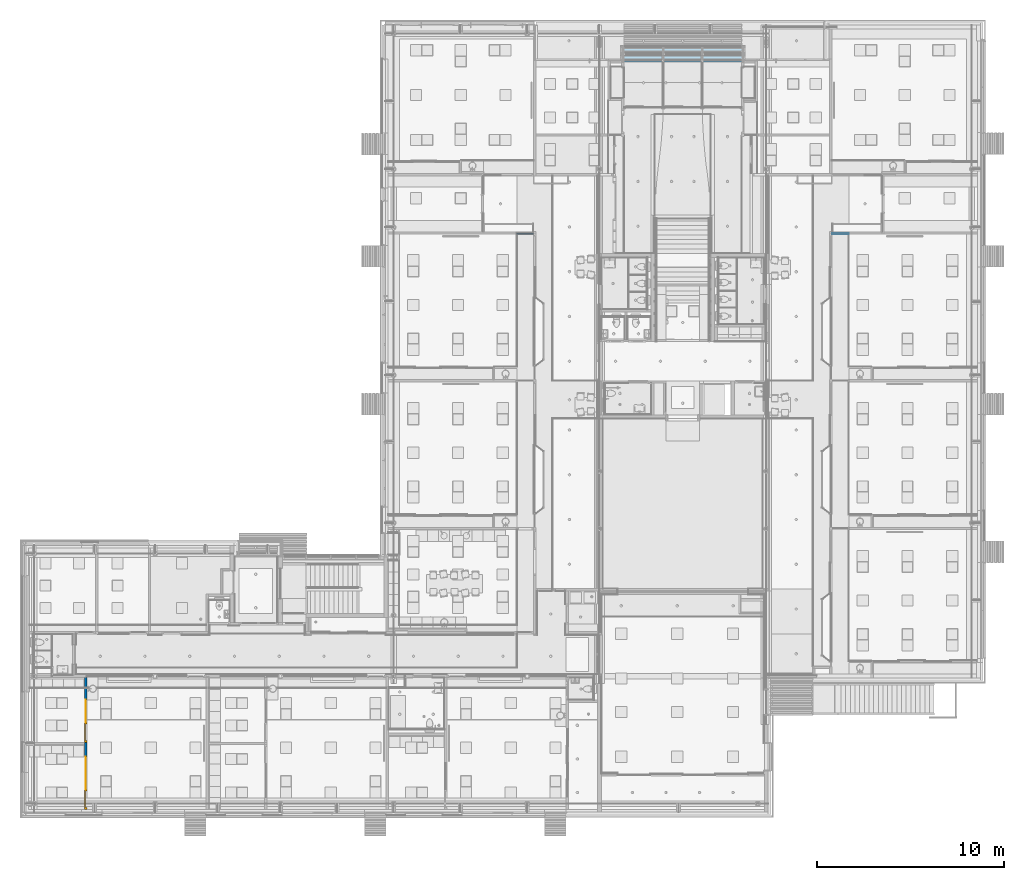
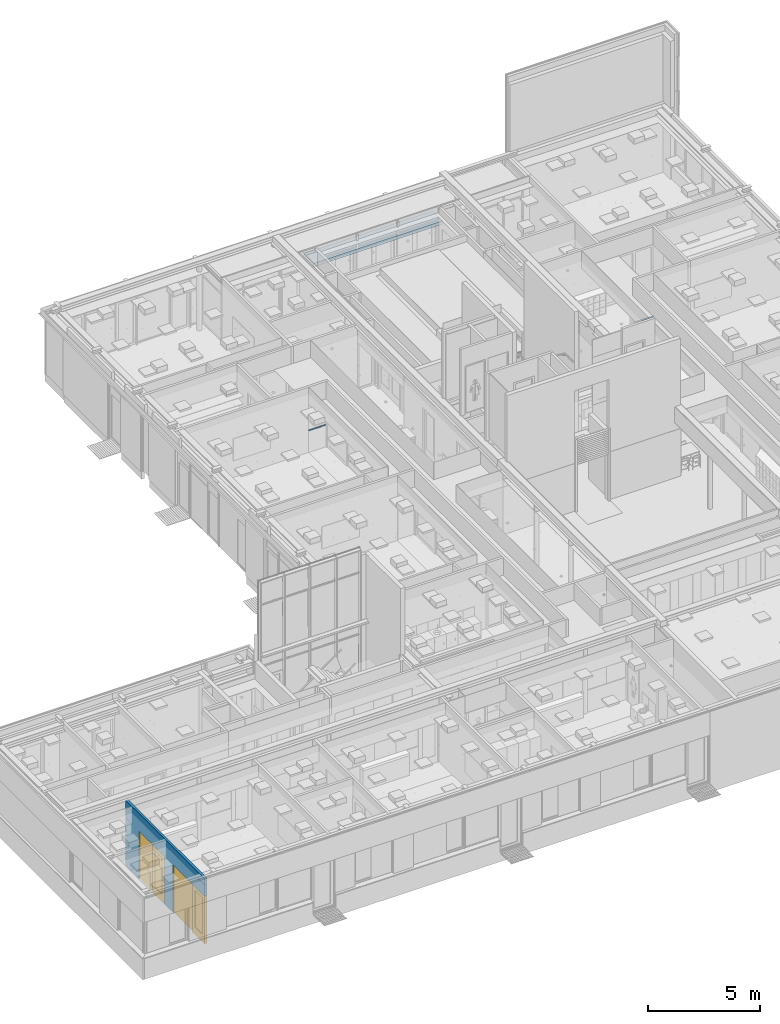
# One storey, part 40 of 347: 2 doors, 2 plates, 2 windows, 1 slab, 1 wall, 4 openings.
"""IFC2X3 building model written with IfcOpenShell, lengths in millimetres."""

from ifc_helpers import new_model, entity, si_unit, converted_unit, derived_unit, money_unit, direction, frame, origin_with_axes, place, context, subcontext, project, spatial, open_shell, faceted_brep, surface_model, source, transform, mapped, material, type_object, type_shapes, element, fill, save


model = new_model("IFC2X3")

# Units and contexts
model_context = context("Model", 3, precision=0.01, world=origin_with_axes(), true_north=direction((0.0, 1.0)))
plan_context = context("Plan", 3, precision=0.01, world=origin_with_axes(), true_north=direction((0.0, 1.0)))
body_context = subcontext(model_context, "Body", "Model", "MODEL_VIEW")
ifc_project = project(units=[si_unit("LENGTHUNIT", "METRE", prefix="MILLI"), si_unit("AREAUNIT", "SQUARE_METRE"), si_unit("VOLUMEUNIT", "CUBIC_METRE"), converted_unit("PLANEANGLEUNIT", "DEGREE", entity("IfcPlaneAngleMeasure", 0.0174532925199), si_unit("PLANEANGLEUNIT", "RADIAN"), dimensions=[0, 0, 0, 0, 0, 0, 0]), money_unit("EUR"), converted_unit("TIMEUNIT", "Year", entity("IfcTimeMeasure", 31556926.0), si_unit("TIMEUNIT", "SECOND"), dimensions=[0, 0, 1, 0, 0, 0, 0]), si_unit("MASSUNIT", "GRAM", prefix="KILO"), si_unit("THERMODYNAMICTEMPERATUREUNIT", "DEGREE_CELSIUS"), si_unit("LUMINOUSINTENSITYUNIT", "LUMEN"), si_unit("ENERGYUNIT", "JOULE", prefix="MEGA"), derived_unit("THERMALCONDUCTANCEUNIT", [(si_unit("POWERUNIT", "WATT"), 1), (si_unit("LENGTHUNIT", "METRE"), -1), (si_unit("THERMODYNAMICTEMPERATUREUNIT", "KELVIN"), -1)]), derived_unit("SPECIFICHEATCAPACITYUNIT", [(si_unit("ENERGYUNIT", "JOULE"), 1), (si_unit("MASSUNIT", "GRAM", prefix="KILO"), -1), (si_unit("THERMODYNAMICTEMPERATUREUNIT", "KELVIN"), -1)]), derived_unit("MASSDENSITYUNIT", [(si_unit("MASSUNIT", "GRAM", prefix="KILO"), 1), (si_unit("VOLUMEUNIT", "CUBIC_METRE"), -1)])], contexts=[model_context, plan_context])

# Site, building, storey
site_placement = place(None, origin_with_axes())
site = spatial("IfcSite", under=ifc_project, at=site_placement, Name="Site", CompositionType="ELEMENT")
building_placement = place(site_placement, origin_with_axes())
building = spatial("IfcBuilding", under=site, at=building_placement, Name="Naam gebouw", CompositionType="ELEMENT")
storey_placement = place(building_placement, origin_with_axes())
storey = spatial("IfcBuildingStorey", under=building, at=storey_placement, Name="begane grond", CompositionType="ELEMENT", Elevation=0.0)

# Plates
ifc_material_1 = material(Name="Hout - Lockers")
plate_type = type_object("IfcPlateType", Name="Hout - Lockers 25", PredefinedType="SHEET")
plate_1_placement = place(storey_placement, frame((48974.9999807, 35890.0, 1200.0), z_axis=(0.0, 0.0, 1.0), x_axis=(1.0, 0.0, 0.0)))
element("IfcPlate", 1, at=plate_1_placement, inside=storey, type_object=plate_type, material=ifc_material_1, Name="72_72 vaste inrichting", ObjectType="SHEET", context=body_context, shape_type="Brep", body=[
    faceted_brep([(0.0, 0.0, 0.0), (0.0, 0.0, -25.0), (-892.999980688, 0.0, -25.0), (-892.999980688, 0.0, 0.0), (0.0, -52.5000194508, 0.0), (0.0, -52.5000194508, -25.0), (-892.999980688, -52.5000194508, -25.0), (-892.999980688, -52.5000194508, 0.0)], [[[0, 1, 2, 3]], [[4, 5, 1, 0]], [[2, 1, 5, 6]], [[3, 2, 6, 7]], [[4, 0, 3, 7]], [[7, 6, 5, 4]]]),
])
plate_2_placement = place(storey_placement, frame((31175.0000193, 35893.5, 1200.0), z_axis=(0.0, 0.0, 1.0), x_axis=(1.0, 0.0, 0.0)))
element("IfcPlate", 2, at=plate_2_placement, inside=storey, type_object=plate_type, material=ifc_material_1, Name="72_72 vaste inrichting", ObjectType="SHEET", context=body_context, shape_type="Brep", body=[
    faceted_brep([(0.0, 0.0, 0.0), (0.0, 0.0, -25.0), (0.0, -56.0000194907, -25.0), (0.0, -56.0000194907, 0.0), (892.999980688, 0.0, 0.0), (892.999980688, 0.0, -25.0), (892.999980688, -56.0000194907, -25.0), (892.999980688, -56.0000194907, 0.0)], [[[0, 1, 2, 3]], [[4, 5, 1, 0]], [[2, 1, 5, 6]], [[3, 2, 6, 7]], [[4, 0, 3, 7]], [[7, 6, 5, 4]]]),
])

# Slab
ifc_material_2 = material(Name="ALG - PREFAB")
slab_type = type_object("IfcSlabType", Name="ALG - PREFAB 185", PredefinedType="NOTDEFINED")
slab_placement = place(storey_placement, frame((36740.0, 45053.0, 2580.0), z_axis=(0.0, 0.0, 1.0), x_axis=(1.0, 0.0, 0.0)))
element("IfcSlab", 3, at=slab_placement, inside=storey, type_object=slab_type, material=ifc_material_2, Name="23_23 VBI 261 + druklaag", PredefinedType="NOTDEFINED", context=body_context, shape_type="Brep", body=[
    faceted_brep([(180.0, 255.0, 0.0), (90.0, 255.0, 0.0), (90.0, 345.0, 0.0), (180.0, 345.0, 0.0), (90.0, 255.0, 40.0000000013), (180.0, 255.0, 40.0000000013), (90.0, 345.0, 40.0000000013), (180.0, 345.0, 40.0000000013), (185.0, 250.0, 40.0000000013), (85.0, 250.0, 40.0000000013), (85.0, 350.0, 40.0000000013), (185.0, 350.0, 40.0000000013), (185.0, 250.0, 0.0), (85.0, 250.0, 0.0), (85.0, 350.0, 0.0), (185.0, 350.0, 0.0), (6670.0, 897.0, 0.0), (6670.0, 0.0, 0.0), (0.0, 0.0, 0.0), (0.0, 897.0, 0.0), (25.0, 511.000000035, 0.0), (25.0, 473.000000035, 0.0), (145.0, 473.000000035, 0.0), (145.0, 511.000000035, 0.0), (6525.0, 511.000000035, 0.0), (6525.0, 473.000000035, 0.0), (6645.0, 473.000000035, 0.0), (6645.0, 511.000000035, 0.0), (6525.0, 393.000000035, 0.0), (6525.0, 355.000000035, 0.0), (6645.0, 355.000000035, 0.0), (6645.0, 393.000000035, 0.0), (6525.0, 851.0, 0.0), (6525.0, 813.0, 0.0), (6645.0, 813.0, 0.0), (6645.0, 851.0, 0.0), (25.0, 393.000000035, 0.0), (25.0, 355.000000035, 0.0), (145.0, 355.000000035, 0.0), (145.0, 393.000000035, 0.0), (25.0, 851.0, 0.0), (25.0, 813.0, 0.0), (145.0, 813.0, 0.0), (145.0, 851.0, 0.0), (6485.0, 5.0, 0.0), (6585.0, 5.0, 0.0), (6585.0, 100.0, 0.0), (6645.0, 100.0, 0.0), (6645.0, 138.0, 0.0), (6525.0, 138.0, 0.0), (6525.0, 105.0, 0.0), (6485.0, 105.0, 0.0), (85.0, 100.0, 0.0), (85.0, 5.0, 0.0), (185.0, 5.0, 0.0), (185.0, 105.0, 0.0), (145.0, 105.0, 0.0), (145.0, 138.0, 0.0), (25.0, 138.0, 0.0), (25.0, 100.0, 0.0), (6485.0, 350.0, 0.0), (6485.0, 250.0, 0.0), (6585.0, 250.0, 0.0), (6585.0, 350.0, 0.0), (4335.0, 350.0, 0.0), (4335.0, 250.0, 0.0), (4435.0, 250.0, 0.0), (4435.0, 350.0, 0.0), (2235.0, 350.0, 0.0), (2235.0, 250.0, 0.0), (2335.0, 250.0, 0.0), (2335.0, 350.0, 0.0), (6670.0, 897.0, 185.000000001), (6670.0, 0.0, 185.000000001), (0.0, 0.0, 185.000000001), (0.0, 897.0, 185.000000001), (25.0, 473.000000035, 40.0000000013), (25.0, 511.000000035, 40.0000000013), (145.0, 473.000000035, 40.0000000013), (145.0, 511.000000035, 40.0000000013), (6525.0, 473.000000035, 40.0000000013), (6525.0, 511.000000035, 40.0000000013), (6645.0, 473.000000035, 40.0000000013), (6645.0, 511.000000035, 40.0000000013), (6525.0, 355.000000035, 40.0000000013), (6525.0, 393.000000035, 40.0000000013), (6645.0, 355.000000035, 40.0000000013), (6645.0, 393.000000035, 40.0000000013), (6525.0, 813.0, 40.0000000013), (6525.0, 851.0, 40.0000000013), (6645.0, 813.0, 40.0000000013), (6645.0, 851.0, 40.0000000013), (25.0, 355.000000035, 40.0000000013), (25.0, 393.000000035, 40.0000000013), (145.0, 355.000000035, 40.0000000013), (145.0, 393.000000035, 40.0000000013), (25.0, 813.0, 40.0000000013), (25.0, 851.0, 40.0000000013), (145.0, 813.0, 40.0000000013), (145.0, 851.0, 40.0000000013), (6585.0, 5.0, 40.0000000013), (6485.0, 5.0, 40.0000000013), (6585.0, 100.0, 40.0000000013), (6645.0, 100.0, 40.0000000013), (6645.0, 138.0, 40.0000000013), (6525.0, 138.0, 40.0000000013), (6525.0, 105.0, 40.0000000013), (6485.0, 105.0, 40.0000000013), (85.0, 100.0, 40.0000000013), (85.0, 5.0, 40.0000000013), (185.0, 5.0, 40.0000000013), (185.0, 105.0, 40.0000000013), (145.0, 105.0, 40.0000000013), (145.0, 138.0, 40.0000000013), (25.0, 138.0, 40.0000000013), (25.0, 100.0, 40.0000000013), (6485.0, 250.0, 40.0000000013), (6485.0, 350.0, 40.0000000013), (6585.0, 250.0, 40.0000000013), (6585.0, 350.0, 40.0000000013), (4335.0, 250.0, 40.0000000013), (4335.0, 350.0, 40.0000000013), (4435.0, 250.0, 40.0000000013), (4435.0, 350.0, 40.0000000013), (2235.0, 250.0, 40.0000000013), (2235.0, 350.0, 40.0000000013), (2335.0, 250.0, 40.0000000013), (2335.0, 350.0, 40.0000000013), (4425.0, 15.0, 185.000000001), (4345.0, 15.0, 185.000000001), (4345.0, 95.0, 185.000000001), (4425.0, 95.0, 185.000000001), (2325.0, 15.0, 185.000000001), (2245.0, 15.0, 185.000000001), (2245.0, 95.0, 185.000000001), (2325.0, 95.0, 185.000000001), (6580.0, 100.0, 40.0000000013), (6490.0, 100.0, 40.0000000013), (6490.0, 10.0, 40.0000000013), (6580.0, 10.0, 40.0000000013), (180.0, 100.0, 40.0000000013), (90.0, 100.0, 40.0000000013), (90.0, 10.0, 40.0000000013), (180.0, 10.0, 40.0000000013), (6490.0, 345.0, 40.0000000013), (6490.0, 255.0, 40.0000000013), (6580.0, 255.0, 40.0000000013), (6580.0, 345.0, 40.0000000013), (4340.0, 345.0, 40.0000000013), (4340.0, 255.0, 40.0000000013), (4430.0, 255.0, 40.0000000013), (4430.0, 345.0, 40.0000000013), (2240.0, 345.0, 40.0000000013), (2240.0, 255.0, 40.0000000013), (2330.0, 255.0, 40.0000000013), (2330.0, 345.0, 40.0000000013), (4345.0, 15.0, 40.0000000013), (4425.0, 15.0, 40.0000000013), (4345.0, 95.0, 40.0000000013), (4425.0, 95.0, 40.0000000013), (2245.0, 15.0, 40.0000000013), (2325.0, 15.0, 40.0000000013), (2245.0, 95.0, 40.0000000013), (2325.0, 95.0, 40.0000000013), (6580.0, 100.0, 0.0), (6490.0, 100.0, 0.0), (6490.0, 10.0, 0.0), (6580.0, 10.0, 0.0), (180.0, 100.0, 0.0), (90.0, 100.0, 0.0), (90.0, 10.0, 0.0), (180.0, 10.0, 0.0), (6490.0, 345.0, 0.0), (6490.0, 255.0, 0.0), (6580.0, 255.0, 0.0), (6580.0, 345.0, 0.0), (4340.0, 345.0, 0.0), (4340.0, 255.0, 0.0), (4430.0, 255.0, 0.0), (4430.0, 345.0, 0.0), (2240.0, 345.0, 0.0), (2240.0, 255.0, 0.0), (2330.0, 255.0, 0.0), (2330.0, 345.0, 0.0), (4420.0, 20.0, 40.0000000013), (4350.0, 20.0, 40.0000000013), (4350.0, 90.0, 40.0000000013), (4420.0, 90.0, 40.0000000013), (2320.0, 20.0, 40.0000000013), (2250.0, 20.0, 40.0000000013), (2250.0, 90.0, 40.0000000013), (2320.0, 90.0, 40.0000000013), (4420.0, 20.0, 185.000000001), (4350.0, 20.0, 185.000000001), (4350.0, 90.0, 185.000000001), (4420.0, 90.0, 185.000000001), (2320.0, 20.0, 185.000000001), (2250.0, 20.0, 185.000000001), (2250.0, 90.0, 185.000000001), (2320.0, 90.0, 185.000000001)], [[[0, 1, 2, 3]], [[4, 1, 0, 5]], [[6, 2, 1, 4]], [[7, 3, 2, 6]], [[5, 0, 3, 7]], [[8, 9, 10, 11], [6, 4, 5, 7]], [[8, 12, 13, 9]], [[9, 13, 14, 10]], [[10, 14, 15, 11]], [[11, 15, 12, 8]], [[16, 17, 18, 19], [20, 21, 22, 23], [24, 25, 26, 27], [28, 29, 30, 31], [32, 33, 34, 35], [36, 37, 38, 39], [40, 41, 42, 43], [44, 45, 46, 47, 48, 49, 50, 51], [52, 53, 54, 55, 56, 57, 58, 59], [60, 61, 62, 63], [64, 65, 66, 67], [68, 69, 70, 71], [14, 13, 12, 15]], [[72, 73, 17, 16]], [[73, 74, 18, 17]], [[74, 75, 19, 18]], [[75, 72, 16, 19]], [[76, 21, 20, 77]], [[78, 22, 21, 76]], [[79, 23, 22, 78]], [[77, 20, 23, 79]], [[80, 25, 24, 81]], [[82, 26, 25, 80]], [[83, 27, 26, 82]], [[81, 24, 27, 83]], [[84, 29, 28, 85]], [[86, 30, 29, 84]], [[87, 31, 30, 86]], [[85, 28, 31, 87]], [[88, 33, 32, 89]], [[90, 34, 33, 88]], [[91, 35, 34, 90]], [[89, 32, 35, 91]], [[92, 37, 36, 93]], [[94, 38, 37, 92]], [[95, 39, 38, 94]], [[93, 36, 39, 95]], [[96, 41, 40, 97]], [[98, 42, 41, 96]], [[99, 43, 42, 98]], [[97, 40, 43, 99]], [[100, 45, 44, 101]], [[100, 102, 46, 45]], [[47, 46, 102, 103]], [[104, 48, 47, 103]], [[105, 49, 48, 104]], [[105, 106, 50, 49]], [[51, 50, 106, 107]], [[101, 44, 51, 107]], [[53, 52, 108, 109]], [[110, 54, 53, 109]], [[111, 55, 54, 110]], [[112, 56, 55, 111]], [[57, 56, 112, 113]], [[114, 58, 57, 113]], [[115, 59, 58, 114]], [[115, 108, 52, 59]], [[116, 61, 60, 117]], [[118, 62, 61, 116]], [[119, 63, 62, 118]], [[117, 60, 63, 119]], [[120, 65, 64, 121]], [[122, 66, 65, 120]], [[123, 67, 66, 122]], [[121, 64, 67, 123]], [[124, 69, 68, 125]], [[126, 70, 69, 124]], [[127, 71, 70, 126]], [[125, 68, 71, 127]], [[72, 75, 74, 73], [128, 129, 130, 131], [132, 133, 134, 135]], [[78, 76, 77, 79]], [[82, 80, 81, 83]], [[86, 84, 85, 87]], [[90, 88, 89, 91]], [[94, 92, 93, 95]], [[98, 96, 97, 99]], [[107, 106, 105, 104, 103, 102, 100, 101], [136, 137, 138, 139]], [[109, 108, 115, 114, 113, 112, 111, 110], [140, 141, 142, 143]], [[118, 116, 117, 119], [144, 145, 146, 147]], [[122, 120, 121, 123], [148, 149, 150, 151]], [[126, 124, 125, 127], [152, 153, 154, 155]], [[156, 129, 128, 157]], [[158, 130, 129, 156]], [[159, 131, 130, 158]], [[157, 128, 131, 159]], [[160, 133, 132, 161]], [[162, 134, 133, 160]], [[163, 135, 134, 162]], [[161, 132, 135, 163]], [[164, 165, 137, 136]], [[137, 165, 166, 138]], [[138, 166, 167, 139]], [[167, 164, 136, 139]], [[168, 169, 141, 140]], [[142, 141, 169, 170]], [[142, 170, 171, 143]], [[143, 171, 168, 140]], [[144, 172, 173, 145]], [[145, 173, 174, 146]], [[146, 174, 175, 147]], [[147, 175, 172, 144]], [[148, 176, 177, 149]], [[149, 177, 178, 150]], [[150, 178, 179, 151]], [[151, 179, 176, 148]], [[152, 180, 181, 153]], [[153, 181, 182, 154]], [[154, 182, 183, 155]], [[155, 183, 180, 152]], [[158, 156, 157, 159], [184, 185, 186, 187]], [[162, 160, 161, 163], [188, 189, 190, 191]], [[166, 165, 164, 167]], [[171, 170, 169, 168]], [[174, 173, 172, 175]], [[178, 177, 176, 179]], [[182, 181, 180, 183]], [[184, 192, 193, 185]], [[185, 193, 194, 186]], [[186, 194, 195, 187]], [[187, 195, 192, 184]], [[188, 196, 197, 189]], [[189, 197, 198, 190]], [[190, 198, 199, 191]], [[191, 199, 196, 188]], [[194, 193, 192, 195]], [[198, 197, 196, 199]]]),
])

# Wall, openings, windows, doors
ifc_material_3 = material(Name="ALG - LICHTE SCHEIDINGSWAND")
wall_type = type_object("IfcWallType", Name="ALG LSW 125 125", PredefinedType="NOTDEFINED")
wall_placement = place(storey_placement, frame((8000.0, 12125.0, 0.0), z_axis=(0.0, 0.0, 1.0), x_axis=(0.0, -1.0, 0.0)))
wall = element("IfcWall", 4, at=wall_placement, inside=storey, type_object=wall_type, material=ifc_material_3, Name="22_GF 125 ECO DGS/2.75.3A", context=body_context, shape_type="Brep", body=[
    faceted_brep([(3535.0, 125.0, 0.0), (3535.0, 125.0, 2600.0), (2471.0, 125.0, 2600.0), (1262.5, 125.0, 2600.0), (1262.5, 125.0, 0.0), (62.5, 125.0, 0.0), (62.5, 125.0, 2600.0), (625.00002799, 125.0, 2600.0), (625.00002799, 125.0, 2612.0), (62.5, 125.0, 2612.0), (62.5, 125.0, 3560.0), (7125.00000221, 125.0, 3560.0), (7125.00002799, 125.0, 3212.0), (6525.00002799, 125.0, 3212.0), (6525.00002799, 125.0, 3200.0), (7125.00002799, 125.0, 3200.0), (7125.00002799, 125.0, 2600.0), (6061.00002799, 125.0, 2600.0), (4311.00002799, 125.0, 2600.0), (4311.00002799, 125.0, 0.0), (3535.0, 0.0, 0.0), (3535.0, 0.0, 2600.0), (2471.0, 0.0, 2600.0), (1262.5, 0.0, 2600.0), (1262.5, 0.0, 0.0), (62.5, 0.0, 0.0), (62.5, 0.0, 2600.0), (625.00002799, 0.0, 2600.0), (625.00002799, 0.0, 2612.0), (62.5, 0.0, 2612.0), (62.5, 0.0, 3560.0), (7125.00000221, 0.0, 3560.0), (7125.00002799, 0.0, 3212.0), (6525.00002799, 0.0, 3212.0), (6525.00002799, 0.0, 3200.0), (7125.00002799, 0.0, 3200.0), (7125.00002799, 0.0, 2600.0), (6061.00002799, 0.0, 2600.0), (4311.00002799, 0.0, 2600.0), (4311.00002799, 0.0, 0.0)], [[[0, 1, 2, 3, 4, 5, 6, 7, 8, 9, 10, 11, 12, 13, 14, 15, 16, 17, 18, 19]], [[1, 0, 20, 21]], [[22, 2, 1, 21]], [[2, 22, 23, 3]], [[23, 24, 4, 3]], [[24, 25, 5, 4]], [[6, 5, 25, 26]], [[6, 26, 27, 7]], [[7, 27, 28, 8]], [[9, 8, 28, 29]], [[29, 30, 10, 9]], [[31, 11, 10, 30]], [[12, 11, 31, 32]], [[12, 32, 33, 13]], [[13, 33, 34, 14]], [[14, 34, 35, 15]], [[16, 15, 35, 36]], [[17, 16, 36, 37]], [[37, 38, 18, 17]], [[19, 18, 38, 39]], [[20, 0, 19, 39]], [[21, 20, 39, 38, 37, 36, 35, 34, 33, 32, 31, 30, 29, 28, 27, 26, 25, 24, 23, 22]]]),
])
opening_1_placement = place(wall_placement, frame((1866.75, 0.0, 0.0), z_axis=(0.0, 0.0, 1.0), x_axis=(1.0, 0.0, 0.0)))
opening_1 = element("IfcOpeningElement", 5, at=opening_1_placement, cuts=wall, Name="32_10.19", context=body_context, shape_type="Brep", body=[
    faceted_brep([(-604.25, 72.5, 2600.0), (-604.25, 72.5, 0.0), (-604.25, -125.0, 0.0), (-604.25, -125.0, 2600.0), (604.25, 72.5, 2600.0), (604.25, 72.5, 0.0), (604.25, -125.0, 0.0), (604.25, -125.0, 2600.0)], [[[0, 1, 2, 3]], [[0, 4, 5, 1]], [[1, 5, 6, 2]], [[3, 2, 6, 7]], [[4, 0, 3, 7]], [[5, 4, 7, 6]]]),
    faceted_brep([(-604.25, 72.5, 0.0), (-604.25, 72.5, 2600.0), (-604.25, 250.0, 2600.0), (-604.25, 250.0, 0.0), (604.25, 72.5, 0.0), (604.25, 72.5, 2600.0), (604.25, 250.0, 2600.0), (604.25, 250.0, 0.0)], [[[0, 1, 2, 3]], [[0, 4, 5, 1]], [[1, 5, 6, 2]], [[3, 2, 6, 7]], [[4, 0, 3, 7]], [[5, 4, 7, 6]]]),
])
opening_2_placement = place(wall_placement, frame((5186.00002799, 0.0, 0.0), z_axis=(0.0, 0.0, 1.0), x_axis=(1.0, 0.0, 0.0)))
opening_2 = element("IfcOpeningElement", 6, at=opening_2_placement, cuts=wall, Name="32_10.05", context=body_context, shape_type="Brep", body=[
    faceted_brep([(-875.0, 72.5, 2600.0), (-875.0, 72.5, 0.0), (-875.0, -125.0, 0.0), (-875.0, -125.0, 2600.0), (875.0, 72.5, 2600.0), (875.0, 72.5, 0.0), (875.0, -125.0, 0.0), (875.0, -125.0, 2600.0)], [[[0, 1, 2, 3]], [[0, 4, 5, 1]], [[1, 5, 6, 2]], [[3, 2, 6, 7]], [[4, 0, 3, 7]], [[5, 4, 7, 6]]]),
    faceted_brep([(-875.0, 72.5, 0.0), (-875.0, 72.5, 2600.0), (-875.0, 250.0, 2600.0), (-875.0, 250.0, 0.0), (875.0, 72.5, 0.0), (875.0, 72.5, 2600.0), (875.0, 250.0, 2600.0), (875.0, 250.0, 0.0)], [[[0, 1, 2, 3]], [[0, 4, 5, 1]], [[1, 5, 6, 2]], [[3, 2, 6, 7]], [[4, 0, 3, 7]], [[5, 4, 7, 6]]]),
])
opening_3_placement = place(wall_placement, frame((6593.00002799, 0.0, 0.0), z_axis=(0.0, 0.0, 1.0), x_axis=(1.0, 0.0, 0.0)))
opening_3 = element("IfcOpeningElement", 7, at=opening_3_placement, cuts=wall, Name="32_01.01", context=body_context, shape_type="Brep", body=[
    faceted_brep([(532.0, 257.0, 0.0), (532.0, 257.0, 2600.0), (532.0, -125.0, 2600.0), (532.0, -125.0, 0.0), (-532.0, 257.0, 0.0), (-532.0, 257.0, 2600.0), (-532.0, -125.0, 2600.0), (-532.0, -125.0, 0.0)], [[[0, 1, 2, 3]], [[0, 4, 5, 1]], [[1, 5, 6, 2]], [[3, 2, 6, 7]], [[4, 0, 3, 7]], [[5, 4, 7, 6]]]),
])
opening_4_placement = place(wall_placement, frame((3003.0, 0.0, 0.0), z_axis=(0.0, 0.0, 1.0), x_axis=(1.0, 0.0, 0.0)))
opening_4 = element("IfcOpeningElement", 8, at=opening_4_placement, cuts=wall, Name="32_01.01", context=body_context, shape_type="Brep", body=[
    faceted_brep([(532.0, 257.0, 0.0), (532.0, 257.0, 2600.0), (532.0, -125.0, 2600.0), (532.0, -125.0, 0.0), (-532.0, 257.0, 0.0), (-532.0, 257.0, 2600.0), (-532.0, -125.0, 2600.0), (-532.0, -125.0, 0.0)], [[[0, 1, 2, 3]], [[0, 4, 5, 1]], [[1, 5, 6, 2]], [[3, 2, 6, 7]], [[4, 0, 3, 7]], [[5, 4, 7, 6]]]),
])
window_style = type_object("IfcWindowStyle", Name="R1 25", ConstructionType="NOTDEFINED", OperationType="SINGLE_PANEL", ParameterTakesPrecedence=False, Sizeable=False)
window_1_placement = place(opening_1_placement, frame((-604.25, 0.0, 0.0), z_axis=(0.0, 0.0, 1.0), x_axis=(1.0, 0.0, 0.0)))
window_1 = element("IfcWindow", 9, at=window_1_placement, inside=storey, type_object=window_style, Name="32_10.19", ObjectType="WINDOW", OverallHeight=2600.0, OverallWidth=1208.5, context=body_context, shape_type="SurfaceModel", body=[
    faceted_brep([(1188.5, 52.5, 2580.0), (1208.5, 52.5, 2580.0), (1208.5, 72.5, 2580.0), (1188.5, 72.5, 2580.0), (1188.5, 52.5, 20.0), (1208.5, 52.5, 20.0), (1208.5, 72.5, 20.0), (1188.5, 72.5, 20.0)], [[[0, 1, 2, 3]], [[0, 4, 5, 1]], [[1, 5, 6, 2]], [[3, 2, 6, 7]], [[4, 0, 3, 7]], [[5, 4, 7, 6]]]),
    faceted_brep([(20.0, 52.5, 20.0), (0.0, 52.5, 20.0), (0.0, 72.5, 20.0), (20.0, 72.5, 20.0), (20.0, 52.5, 2580.0), (0.0, 52.5, 2580.0), (0.0, 72.5, 2580.0), (20.0, 72.5, 2580.0)], [[[0, 1, 2, 3]], [[0, 4, 5, 1]], [[1, 5, 6, 2]], [[3, 2, 6, 7]], [[4, 0, 3, 7]], [[5, 4, 7, 6]]]),
    faceted_brep([(1188.5, 52.5, 20.0), (1208.5, 52.5, 20.0), (1208.5, 72.5, 20.0), (1188.5, 72.5, 20.0), (20.0, 52.5, 20.0), (0.0, 52.5, 20.0), (0.0, 52.5, 0.0), (1208.5, 52.5, 0.0), (1208.5, 72.5, 0.0), (0.0, 72.5, 0.0), (0.0, 72.5, 20.0), (20.0, 72.5, 20.0)], [[[0, 1, 2, 3]], [[0, 4, 5, 6, 7, 1]], [[1, 7, 8, 2]], [[3, 2, 8, 9, 10, 11]], [[4, 0, 3, 11]], [[5, 4, 11, 10]], [[6, 5, 10, 9]], [[7, 6, 9, 8]]]),
    faceted_brep([(20.0, 52.5, 2580.0), (0.0, 52.5, 2580.0), (0.0, 72.5, 2580.0), (20.0, 72.5, 2580.0), (1188.5, 52.5, 2580.0), (1208.5, 52.5, 2580.0), (1208.5, 52.5, 2600.0), (0.0, 52.5, 2600.0), (0.0, 72.5, 2600.0), (1208.5, 72.5, 2600.0), (1208.5, 72.5, 2580.0), (1188.5, 72.5, 2580.0)], [[[0, 1, 2, 3]], [[0, 4, 5, 6, 7, 1]], [[1, 7, 8, 2]], [[3, 2, 8, 9, 10, 11]], [[4, 0, 3, 11]], [[5, 4, 11, 10]], [[6, 5, 10, 9]], [[7, 6, 9, 8]]]),
    surface_model("IfcShellBasedSurfaceModel", [(1188.5, 52.5, 20.0), (1188.5, 52.5, 2580.0), (20.0, 52.5, 2580.0), (20.0, 52.5, 20.0)], [open_shell([[[0, 1, 2, 3]]])]),
    surface_model("IfcShellBasedSurfaceModel", [(1188.5, 72.5, 20.0), (20.0, 72.5, 20.0), (20.0, 72.5, 2580.0), (1188.5, 72.5, 2580.0)], [open_shell([[[0, 1, 2, 3]]])]),
])
fill(opening_1, window_1)
door_style = type_object("IfcDoorStyle", Name="D1 25", ConstructionType="NOTDEFINED", OperationType="SINGLE_SWING_LEFT", ParameterTakesPrecedence=False, Sizeable=False)
shared_shape_1 = source(origin_with_axes(), body_context, "Body", "SurfaceModel", [
    faceted_brep([(442.0, -60.0, 0.0), (442.0, -139.0, 0.0), (442.0, -139.0, 2510.0), (442.0, -60.0, 2510.0), (467.0, -60.0, 0.0), (467.0, 0.0, 0.0), (532.0, 0.0, 0.0), (532.0, -139.0, 0.0), (532.0, -139.0, 2510.0), (467.0, -60.0, 2510.0), (532.0, 0.0, 2510.0), (467.0, 0.0, 2510.0)], [[[0, 1, 2, 3]], [[4, 5, 6, 7, 1, 0]], [[1, 7, 8, 2]], [[9, 3, 2, 8, 10, 11]], [[9, 4, 0, 3]], [[11, 5, 4, 9]], [[11, 10, 6, 5]], [[6, 10, 8, 7]]]),
    faceted_brep([(-467.0, -60.0, 2510.0), (-467.0, 0.0, 2510.0), (-532.0, 0.0, 2510.0), (-532.0, -139.0, 2510.0), (-442.0, -139.0, 2510.0), (-442.0, -60.0, 2510.0), (-467.0, -60.0, 0.0), (-467.0, 0.0, 0.0), (-532.0, 0.0, 0.0), (-532.0, -139.0, 0.0), (-442.0, -139.0, 0.0), (-442.0, -60.0, 0.0)], [[[0, 1, 2, 3, 4, 5]], [[0, 6, 7, 1]], [[7, 8, 2, 1]], [[2, 8, 9, 3]], [[3, 9, 10, 4]], [[5, 4, 10, 11]], [[5, 11, 6, 0]], [[6, 11, 10, 9, 8, 7]]]),
    faceted_brep([(467.0, 0.0, 2535.0), (-467.0, 0.0, 2535.0), (-467.0, 0.0, 2510.0), (-532.0, 0.0, 2510.0), (-532.0, 0.0, 2600.0), (532.0, 0.0, 2600.0), (532.0, 0.0, 2510.0), (467.0, 0.0, 2510.0), (467.0, -60.0, 2535.0), (-467.0, -60.0, 2535.0), (-467.0, -60.0, 2510.0), (-442.0, -60.0, 2510.0), (-442.0, -139.0, 2510.0), (-532.0, -139.0, 2510.0), (-532.0, -139.0, 2600.0), (532.0, -139.0, 2600.0), (532.0, -139.0, 2510.0), (467.0, -60.0, 2510.0), (442.0, -139.0, 2510.0), (442.0, -60.0, 2510.0)], [[[0, 1, 2, 3, 4, 5, 6, 7]], [[0, 8, 9, 1]], [[1, 9, 10, 2]], [[10, 11, 12, 13, 3, 2]], [[4, 3, 13, 14]], [[5, 4, 14, 15]], [[6, 5, 15, 16]], [[17, 7, 6, 16, 18, 19]], [[7, 17, 8, 0]], [[10, 9, 8, 17, 19, 11]], [[19, 18, 12, 11]], [[12, 18, 16, 15, 14, 13]]]),
    faceted_brep([(-467.0, -6.0, 400.0), (-327.0, -6.0, 400.0), (-327.0, -60.0, 400.0), (-467.0, -60.0, 400.0), (-467.0, -6.0, 2395.0), (-327.0, -6.0, 2395.0), (-327.0, -60.0, 2395.0), (-467.0, -60.0, 2395.0)], [[[0, 1, 2, 3]], [[0, 4, 5, 1]], [[1, 5, 6, 2]], [[3, 2, 6, 7]], [[4, 0, 3, 7]], [[5, 4, 7, 6]]]),
    faceted_brep([(467.0, -6.0, 400.0), (467.0, -6.0, 2395.0), (467.0, -60.0, 2395.0), (467.0, -60.0, 400.0), (327.0, -6.0, 400.0), (327.0, -6.0, 2395.0), (327.0, -60.0, 2395.0), (327.0, -60.0, 400.0)], [[[0, 1, 2, 3]], [[0, 4, 5, 1]], [[1, 5, 6, 2]], [[3, 2, 6, 7]], [[4, 0, 3, 7]], [[5, 4, 7, 6]]]),
    faceted_brep([(-467.0, -6.0, 0.0), (467.0, -6.0, 0.0), (467.0, -60.0, 0.0), (-467.0, -60.0, 0.0), (-467.0, -6.0, 400.0), (-327.0, -6.0, 400.0), (327.0, -6.0, 400.0), (467.0, -6.0, 400.0), (467.0, -60.0, 400.0), (327.0, -60.0, 400.0), (-327.0, -60.0, 400.0), (-467.0, -60.0, 400.0)], [[[0, 1, 2, 3]], [[0, 4, 5, 6, 7, 1]], [[1, 7, 8, 2]], [[3, 2, 8, 9, 10, 11]], [[4, 0, 3, 11]], [[5, 4, 11, 10]], [[6, 5, 10, 9]], [[7, 6, 9, 8]]]),
    faceted_brep([(-467.0, -6.0, 2535.0), (-467.0, -6.0, 2395.0), (-467.0, -60.0, 2395.0), (-467.0, -60.0, 2535.0), (467.0, -6.0, 2535.0), (467.0, -6.0, 2395.0), (327.0, -6.0, 2395.0), (-327.0, -6.0, 2395.0), (-327.0, -60.0, 2395.0), (327.0, -60.0, 2395.0), (467.0, -60.0, 2395.0), (467.0, -60.0, 2535.0)], [[[0, 1, 2, 3]], [[0, 4, 5, 6, 7, 1]], [[1, 7, 8, 2]], [[3, 2, 8, 9, 10, 11]], [[4, 0, 3, 11]], [[5, 4, 11, 10]], [[6, 5, 10, 9]], [[7, 6, 9, 8]]]),
    surface_model("IfcShellBasedSurfaceModel", [(-327.0, -27.0, 400.0), (-327.0, -27.0, 2395.0), (327.0, -27.0, 2395.0), (327.0, -27.0, 400.0)], [open_shell([[[0, 1, 2, 3]]])]),
    surface_model("IfcShellBasedSurfaceModel", [(-327.0, -39.0, 400.0), (327.0, -39.0, 400.0), (327.0, -39.0, 2395.0), (-327.0, -39.0, 2395.0)], [open_shell([[[0, 1, 2, 3]]])]),
])
type_shapes(door_style, [shared_shape_1])
door_1_placement = place(opening_3_placement, frame((532.0, 0.0, 0.0), z_axis=(0.0, 0.0, 1.0), x_axis=(-1.0, 0.0, 0.0)))
door_1 = element("IfcDoor", 10, at=door_1_placement, inside=storey, type_object=door_style, Name="32_01.01", ObjectType="DOOR", OverallHeight=2600.0, OverallWidth=1064.0, context=body_context, shape_type="MappedRepresentation", body=[
    mapped(shared_shape_1, transform((532.0, 7.0, 0.0))),
])
fill(opening_3, door_1)
door_2_placement = place(opening_4_placement, frame((532.0, 0.0, 0.0), z_axis=(0.0, 0.0, 1.0), x_axis=(-1.0, 0.0, 0.0)))
door_2 = element("IfcDoor", 11, at=door_2_placement, inside=storey, type_object=door_style, Name="32_01.01", ObjectType="DOOR", OverallHeight=2600.0, OverallWidth=1064.0, context=body_context, shape_type="MappedRepresentation", body=[
    mapped(shared_shape_1, transform((532.0, 7.0, 0.0))),
])
fill(opening_4, door_2)
shared_shape_2 = source(origin_with_axes(), body_context, "Body", "SurfaceModel", [
    faceted_brep([(855.0, -20.0, 2580.0), (875.0, -20.0, 2580.0), (875.0, 0.0, 2580.0), (855.0, 0.0, 2580.0), (855.0, -20.0, 20.0), (875.0, -20.0, 20.0), (875.0, 0.0, 20.0), (855.0, 0.0, 20.0)], [[[0, 1, 2, 3]], [[0, 4, 5, 1]], [[1, 5, 6, 2]], [[3, 2, 6, 7]], [[4, 0, 3, 7]], [[5, 4, 7, 6]]]),
    faceted_brep([(-855.0, -20.0, 20.0), (-875.0, -20.0, 20.0), (-875.0, 0.0, 20.0), (-855.0, 0.0, 20.0), (-855.0, -20.0, 2580.0), (-875.0, -20.0, 2580.0), (-875.0, 0.0, 2580.0), (-855.0, 0.0, 2580.0)], [[[0, 1, 2, 3]], [[0, 4, 5, 1]], [[1, 5, 6, 2]], [[3, 2, 6, 7]], [[4, 0, 3, 7]], [[5, 4, 7, 6]]]),
    faceted_brep([(855.0, -20.0, 20.0), (875.0, -20.0, 20.0), (875.0, 0.0, 20.0), (855.0, 0.0, 20.0), (-855.0, -20.0, 20.0), (-875.0, -20.0, 20.0), (-875.0, -20.0, 0.0), (875.0, -20.0, 0.0), (875.0, 0.0, 0.0), (-875.0, 0.0, 0.0), (-875.0, 0.0, 20.0), (-855.0, 0.0, 20.0)], [[[0, 1, 2, 3]], [[0, 4, 5, 6, 7, 1]], [[1, 7, 8, 2]], [[3, 2, 8, 9, 10, 11]], [[4, 0, 3, 11]], [[5, 4, 11, 10]], [[6, 5, 10, 9]], [[7, 6, 9, 8]]]),
    faceted_brep([(-855.0, -20.0, 2580.0), (-875.0, -20.0, 2580.0), (-875.0, 0.0, 2580.0), (-855.0, 0.0, 2580.0), (855.0, -20.0, 2580.0), (875.0, -20.0, 2580.0), (875.0, -20.0, 2600.0), (-875.0, -20.0, 2600.0), (-875.0, 0.0, 2600.0), (875.0, 0.0, 2600.0), (875.0, 0.0, 2580.0), (855.0, 0.0, 2580.0)], [[[0, 1, 2, 3]], [[0, 4, 5, 6, 7, 1]], [[1, 7, 8, 2]], [[3, 2, 8, 9, 10, 11]], [[4, 0, 3, 11]], [[5, 4, 11, 10]], [[6, 5, 10, 9]], [[7, 6, 9, 8]]]),
    surface_model("IfcShellBasedSurfaceModel", [(855.0, -20.0, 20.0), (855.0, -20.0, 2580.0), (-855.0, -20.0, 2580.0), (-855.0, -20.0, 20.0)], [open_shell([[[0, 1, 2, 3]]])]),
    surface_model("IfcShellBasedSurfaceModel", [(855.0, 0.0, 20.0), (-855.0, 0.0, 20.0), (-855.0, 0.0, 2580.0), (855.0, 0.0, 2580.0)], [open_shell([[[0, 1, 2, 3]]])]),
])
type_shapes(window_style, [shared_shape_2])
window_2_placement = place(opening_2_placement, frame((-875.0, 0.0, 0.0), z_axis=(0.0, 0.0, 1.0), x_axis=(1.0, 0.0, 0.0)))
window_2 = element("IfcWindow", 12, at=window_2_placement, inside=storey, type_object=window_style, Name="32_10.05", ObjectType="WINDOW", OverallHeight=2600.0, OverallWidth=1750.0, context=body_context, shape_type="MappedRepresentation", body=[
    mapped(shared_shape_2, transform((875.0, 72.5, 0.0))),
])
fill(opening_2, window_2)

save(model, "model.ifc")
